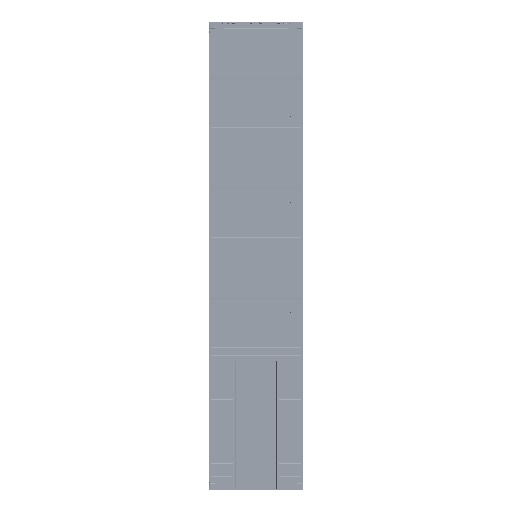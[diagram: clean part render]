
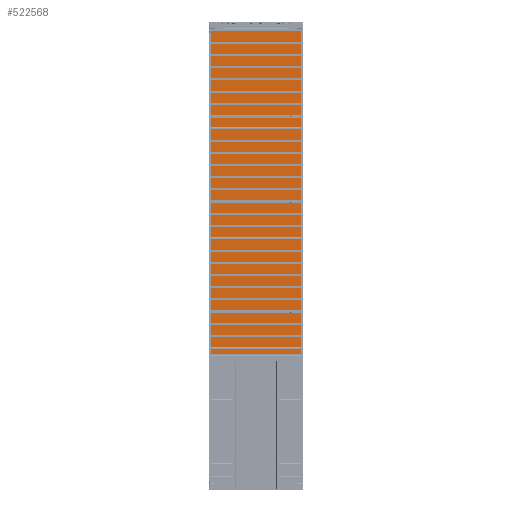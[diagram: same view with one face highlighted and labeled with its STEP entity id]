
A CAD part, front view. The second image highlights one B-rep face of the part: STEP entity #522568.
In plain terms, the highlighted planar face has unit normal (0, -1, 0).
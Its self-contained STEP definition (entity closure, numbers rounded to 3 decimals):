
#3070 = CARTESIAN_POINT ( 'NONE',  ( 2330.978, 139., -8689. ) ) ;
#14757 = VERTEX_POINT ( 'NONE', #336229 ) ;
#57097 = EDGE_CURVE ( 'NONE', #204832, #162185, #329294, .T. ) ;
#77827 = EDGE_LOOP ( 'NONE', ( #79261, #317839, #299258, #482474 ) ) ;
#79261 = ORIENTED_EDGE ( 'NONE', *, *, #463217, .F. ) ;
#84307 = CARTESIAN_POINT ( 'NONE',  ( 5.978, 139., -8689. ) ) ;
#110420 = CARTESIAN_POINT ( 'NONE',  ( 5.978, 139., -8689. ) ) ;
#162185 = VERTEX_POINT ( 'NONE', #418422 ) ;
#181746 = FACE_OUTER_BOUND ( 'NONE', #77827, .T. ) ;
#195695 = DIRECTION ( 'NONE',  ( 0., 0., -1. ) ) ;
#204832 = VERTEX_POINT ( 'NONE', #110420 ) ;
#218150 = VECTOR ( 'NONE', #195695, 1000. ) ;
#225578 = LINE ( 'NONE', #475520, #226075 ) ;
#226075 = VECTOR ( 'NONE', #305309, 1000. ) ;
#233532 = VECTOR ( 'NONE', #332016, 1000. ) ;
#293001 = LINE ( 'NONE', #84307, #327864 ) ;
#299258 = ORIENTED_EDGE ( 'NONE', *, *, #57097, .F. ) ;
#305309 = DIRECTION ( 'NONE',  ( 1., 0., 0. ) ) ;
#310776 = DIRECTION ( 'NONE',  ( 0., 1., 0. ) ) ;
#317839 = ORIENTED_EDGE ( 'NONE', *, *, #542222, .F. ) ;
#327864 = VECTOR ( 'NONE', #537325, 1000. ) ;
#329294 = LINE ( 'NONE', #414359, #233532 ) ;
#330184 = CARTESIAN_POINT ( 'NONE',  ( 2330.978, 139., -8689. ) ) ;
#332016 = DIRECTION ( 'NONE',  ( 0., 0., 1. ) ) ;
#336229 = CARTESIAN_POINT ( 'NONE',  ( 2330.978, 139., -179. ) ) ;
#398585 = CARTESIAN_POINT ( 'NONE',  ( 1168.478, 139., -4434. ) ) ;
#404468 = LINE ( 'NONE', #330184, #218150 ) ;
#414359 = CARTESIAN_POINT ( 'NONE',  ( 5.978, 139., -8689. ) ) ;
#418422 = CARTESIAN_POINT ( 'NONE',  ( 5.978, 139., -179. ) ) ;
#463217 = EDGE_CURVE ( 'NONE', #14757, #473841, #404468, .T. ) ;
#470555 = EDGE_CURVE ( 'NONE', #473841, #204832, #293001, .T. ) ;
#473841 = VERTEX_POINT ( 'NONE', #3070 ) ;
#475520 = CARTESIAN_POINT ( 'NONE',  ( 5.978, 139., -179. ) ) ;
#475620 = DIRECTION ( 'NONE',  ( 1., 0., 0. ) ) ;
#482474 = ORIENTED_EDGE ( 'NONE', *, *, #470555, .F. ) ;
#502603 = AXIS2_PLACEMENT_3D ( 'NONE', #398585, #310776, #475620 ) ;
#516708 = PLANE ( 'NONE',  #502603 ) ;
#522568 = ADVANCED_FACE ( 'NONE', ( #181746 ), #516708, .F. ) ;
#537325 = DIRECTION ( 'NONE',  ( -1., 0., 0. ) ) ;
#542222 = EDGE_CURVE ( 'NONE', #162185, #14757, #225578, .T. ) ;
